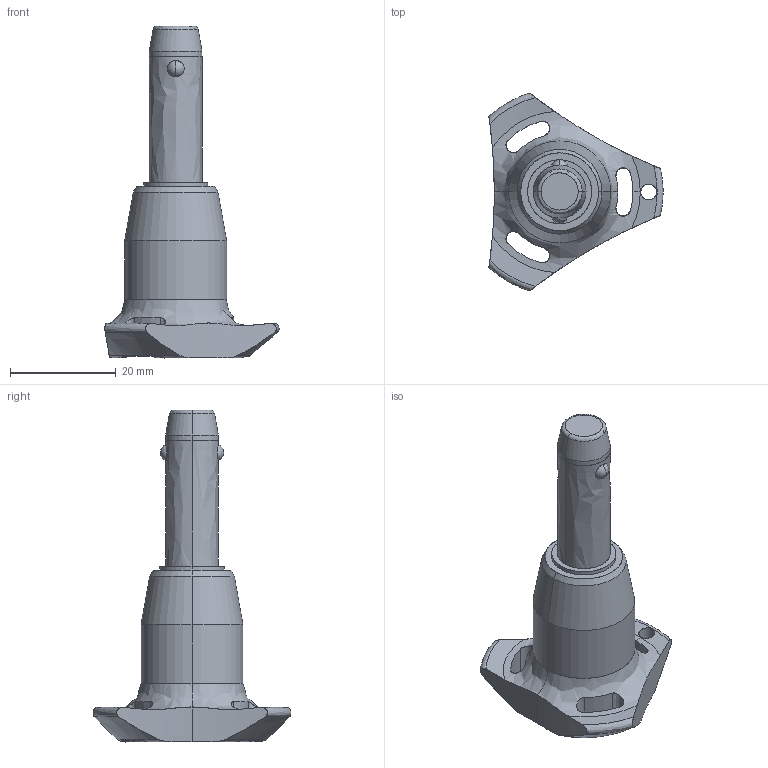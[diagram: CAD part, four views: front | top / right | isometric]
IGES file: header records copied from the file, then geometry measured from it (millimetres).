
Start section: SolidWorks IGES file using analytic representation for surfaces
Global section: file name: C:\Users\ianosborn\Desktop\33060_v2\33060.BK_v2_20240910_IGES\33060.W0844.igs; native system: SolidWorks 2019; preprocessor: SolidWorks 2019; author: IanOsborn; date: 240910.201110; units: millimetre
Bounding box: 33 x 37.51 x 62.9 mm (x, y, z)
Surface area: 4793 mm2 (no closed solid volume)
Topology: 0 solids, 0 shells, 68 faces, 1354 edges, 1350 vertices
Faces by surface type: revolution 52, bspline 16
